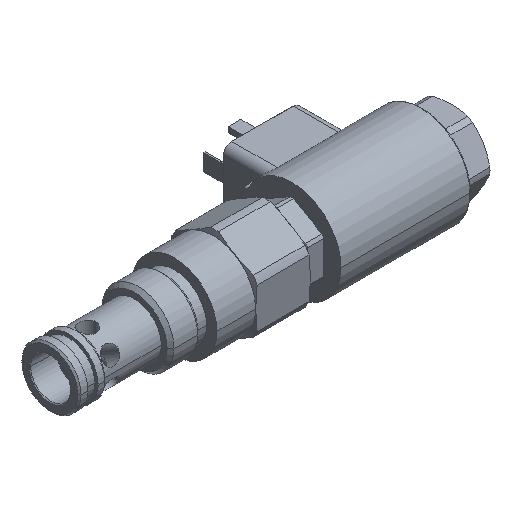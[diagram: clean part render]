
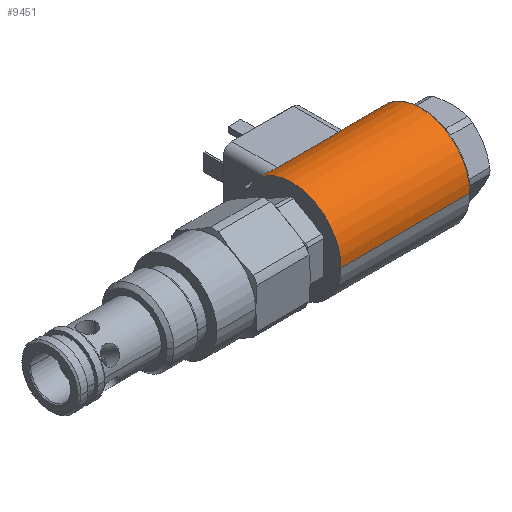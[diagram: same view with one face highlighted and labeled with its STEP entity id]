
A CAD part, isometric view. The second image highlights one B-rep face of the part: STEP entity #9451.
In plain terms, the highlighted cylindrical face has radius 18.5 mm (diameter 37 mm), a partial arc.
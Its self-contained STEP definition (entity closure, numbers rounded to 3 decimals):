
#6820=CARTESIAN_POINT('',(0.,0.,0.));
#6821=DIRECTION('',(1.,0.,0.));
#6822=DIRECTION('',(0.,1.,0.));
#6823=AXIS2_PLACEMENT_3D('',#6820,#6821,#6822);
#6859=DIRECTION('',(-1.,0.,0.));
#6860=VECTOR('',#6859,0.5);
#6861=CARTESIAN_POINT('',(0.5,18.5,0.));
#6862=LINE('',#6861,#6860);
#6866=DIRECTION('',(-1.,0.,0.));
#6867=VECTOR('',#6866,48.368);
#6868=CARTESIAN_POINT('',(48.368,-18.5,0.));
#6869=LINE('',#6868,#6867);
#6881=DIRECTION('',(-1.,0.,0.));
#6882=VECTOR('',#6881,16.368);
#6883=CARTESIAN_POINT('',(48.368,18.5,0.));
#6884=LINE('',#6883,#6882);
#7050=CARTESIAN_POINT('',(1.5,16.608,8.15));
#7051=CARTESIAN_POINT('',(1.468,16.608,8.15));
#7052=CARTESIAN_POINT('',(1.402,16.61,8.147));
#7053=CARTESIAN_POINT('',(1.304,16.617,8.132));
#7054=CARTESIAN_POINT('',(1.206,16.629,8.108));
#7055=CARTESIAN_POINT('',(1.112,16.645,8.074));
#7056=CARTESIAN_POINT('',(1.021,16.666,8.03));
#7057=CARTESIAN_POINT('',(0.933,16.692,7.976));
#7058=CARTESIAN_POINT('',(0.851,16.722,7.913));
#7059=CARTESIAN_POINT('',(0.775,16.756,7.841));
#7060=CARTESIAN_POINT('',(0.705,16.794,7.76));
#7061=CARTESIAN_POINT('',(0.644,16.835,7.671));
#7062=CARTESIAN_POINT('',(0.593,16.878,7.575));
#7063=CARTESIAN_POINT('',(0.552,16.923,7.475));
#7064=CARTESIAN_POINT('',(0.522,16.969,7.369));
#7065=CARTESIAN_POINT('',(0.504,17.016,7.26));
#7066=CARTESIAN_POINT('',(0.5,17.047,7.187));
#7067=CARTESIAN_POINT('',(0.5,17.062,7.15));
#7755=CARTESIAN_POINT('',(0.5,0.,0.));
#7756=DIRECTION('',(1.,0.,0.));
#7757=DIRECTION('',(0.,1.,0.));
#7758=AXIS2_PLACEMENT_3D('',#7755,#7756,#7757);
#7763=DIRECTION('',(1.,0.,0.));
#7764=VECTOR('',#7763,1.5);
#7765=CARTESIAN_POINT('',(1.5,16.608,8.15));
#7766=LINE('',#7765,#7764);
#7770=CARTESIAN_POINT('',(3.,0.,0.));
#7771=DIRECTION('',(1.,0.,0.));
#7772=DIRECTION('',(0.,0.898,0.441));
#7773=AXIS2_PLACEMENT_3D('',#7770,#7771,#7772);
#7778=CARTESIAN_POINT('',(3.,14.491,11.5));
#7779=CARTESIAN_POINT('',(3.,14.417,11.594));
#7780=CARTESIAN_POINT('',(3.009,14.263,11.784));
#7781=CARTESIAN_POINT('',(3.051,14.016,12.077));
#7782=CARTESIAN_POINT('',(3.122,13.762,12.366));
#7783=CARTESIAN_POINT('',(3.223,13.504,12.647));
#7784=CARTESIAN_POINT('',(3.35,13.247,12.916));
#7785=CARTESIAN_POINT('',(3.5,12.997,13.167));
#7786=CARTESIAN_POINT('',(3.669,12.761,13.396));
#7787=CARTESIAN_POINT('',(3.854,12.54,13.602));
#7788=CARTESIAN_POINT('',(4.05,12.339,13.785));
#7789=CARTESIAN_POINT('',(4.252,12.16,13.943));
#7790=CARTESIAN_POINT('',(4.458,12.004,14.077));
#7791=CARTESIAN_POINT('',(4.662,11.872,14.188));
#7792=CARTESIAN_POINT('',(4.863,11.763,14.279));
#7793=CARTESIAN_POINT('',(5.06,11.674,14.352));
#7794=CARTESIAN_POINT('',(5.254,11.604,14.408));
#7795=CARTESIAN_POINT('',(5.444,11.552,14.45));
#7796=CARTESIAN_POINT('',(5.63,11.515,14.479));
#7797=CARTESIAN_POINT('',(5.816,11.494,14.496));
#7798=CARTESIAN_POINT('',(5.939,11.489,14.5));
#7799=CARTESIAN_POINT('',(6.,11.489,14.5));
#7804=DIRECTION('',(1.,0.,0.));
#7805=VECTOR('',#7804,23.);
#7806=CARTESIAN_POINT('',(6.,11.489,14.5));
#7807=LINE('',#7806,#7805);
#7811=CARTESIAN_POINT('',(29.,11.489,14.5));
#7812=CARTESIAN_POINT('',(29.061,11.489,14.5));
#7813=CARTESIAN_POINT('',(29.184,11.494,14.496));
#7814=CARTESIAN_POINT('',(29.37,11.515,14.479));
#7815=CARTESIAN_POINT('',(29.556,11.552,14.45));
#7816=CARTESIAN_POINT('',(29.746,11.604,14.408));
#7817=CARTESIAN_POINT('',(29.94,11.674,14.352));
#7818=CARTESIAN_POINT('',(30.137,11.763,14.279));
#7819=CARTESIAN_POINT('',(30.338,11.872,14.188));
#7820=CARTESIAN_POINT('',(30.542,12.004,14.077));
#7821=CARTESIAN_POINT('',(30.748,12.16,13.943));
#7822=CARTESIAN_POINT('',(30.95,12.339,13.785));
#7823=CARTESIAN_POINT('',(31.146,12.54,13.602));
#7824=CARTESIAN_POINT('',(31.331,12.761,13.395));
#7825=CARTESIAN_POINT('',(31.5,12.997,13.167));
#7826=CARTESIAN_POINT('',(31.65,13.247,12.916));
#7827=CARTESIAN_POINT('',(31.777,13.504,12.647));
#7828=CARTESIAN_POINT('',(31.878,13.762,12.366));
#7829=CARTESIAN_POINT('',(31.949,14.016,12.077));
#7830=CARTESIAN_POINT('',(31.991,14.263,11.784));
#7831=CARTESIAN_POINT('',(32.,14.417,11.594));
#7832=CARTESIAN_POINT('',(32.,14.491,11.5));
#7837=CARTESIAN_POINT('',(32.,0.,0.));
#7838=DIRECTION('',(1.,0.,0.));
#7839=DIRECTION('',(0.,1.,0.));
#7840=AXIS2_PLACEMENT_3D('',#7837,#7838,#7839);
#7845=CARTESIAN_POINT('',(48.368,0.,0.));
#7846=DIRECTION('',(1.,0.,0.));
#7847=DIRECTION('',(0.,1.,0.));
#7848=AXIS2_PLACEMENT_3D('',#7845,#7846,#7847);
#8087=CARTESIAN_POINT('',(48.368,-18.5,0.));
#8088=CARTESIAN_POINT('',(0.,-18.5,0.));
#8089=VERTEX_POINT('',#8087);
#8090=VERTEX_POINT('',#8088);
#8091=CARTESIAN_POINT('',(6.,11.489,14.5));
#8092=CARTESIAN_POINT('',(29.,11.489,14.5));
#8093=VERTEX_POINT('',#8091);
#8094=VERTEX_POINT('',#8092);
#8095=VERTEX_POINT('',#7832);
#8096=CARTESIAN_POINT('',(32.,18.5,0.));
#8097=VERTEX_POINT('',#8096);
#8098=VERTEX_POINT('',#7778);
#8105=CARTESIAN_POINT('',(48.368,18.5,0.));
#8106=VERTEX_POINT('',#8105);
#8187=CARTESIAN_POINT('',(0.,18.5,0.));
#8188=VERTEX_POINT('',#8187);
#8241=CARTESIAN_POINT('',(3.,16.608,8.15));
#8242=VERTEX_POINT('',#8241);
#8245=CARTESIAN_POINT('',(1.5,16.608,8.15));
#8246=VERTEX_POINT('',#8245);
#8247=CARTESIAN_POINT('',(0.5,17.062,7.15));
#8248=VERTEX_POINT('',#8247);
#8256=CARTESIAN_POINT('',(0.5,18.5,0.));
#8257=VERTEX_POINT('',#8256);
#9426=CARTESIAN_POINT('',(-2.47,0.,0.));
#9427=DIRECTION('',(1.,0.,0.));
#9428=DIRECTION('',(0.,-1.,0.));
#9429=AXIS2_PLACEMENT_3D('',#9426,#9427,#9428);
#9430=CYLINDRICAL_SURFACE('',#9429,18.5);
#9432=ORIENTED_EDGE('',*,*,#9431,.T.);
#9433=ORIENTED_EDGE('',*,*,#8438,.F.);
#9434=ORIENTED_EDGE('',*,*,#8466,.T.);
#9435=ORIENTED_EDGE('',*,*,#8492,.T.);
#9437=ORIENTED_EDGE('',*,*,#9436,.T.);
#9439=ORIENTED_EDGE('',*,*,#9438,.T.);
#9441=ORIENTED_EDGE('',*,*,#9440,.T.);
#9442=ORIENTED_EDGE('',*,*,#9407,.F.);
#9443=ORIENTED_EDGE('',*,*,#8325,.F.);
#9445=ORIENTED_EDGE('',*,*,#9444,.T.);
#9446=ORIENTED_EDGE('',*,*,#8321,.T.);
#9447=ORIENTED_EDGE('',*,*,#8289,.F.);
#9448=ORIENTED_EDGE('',*,*,#8318,.F.);
#9449=EDGE_LOOP('',(#9432,#9433,#9434,#9435,#9437,#9439,#9441,#9442,#9443,#9445,
#9446,#9447,#9448));
#9450=FACE_OUTER_BOUND('',#9449,.F.);
#6824=CIRCLE('',#6823,18.5);
#7068=B_SPLINE_CURVE_WITH_KNOTS('',3,(#7050,#7051,#7052,#7053,#7054,#7055,#7056,
#7057,#7058,#7059,#7060,#7061,#7062,#7063,#7064,#7065,#7066,#7067),
.UNSPECIFIED.,.F.,.F.,(4,1,1,1,1,1,1,1,1,1,1,1,1,1,1,4),(0.,0.067,
0.133,0.2,0.267,0.333,0.4,
0.467,0.533,0.6,0.667,0.733,
0.8,0.867,0.933,1.),.UNSPECIFIED.);
#7759=CIRCLE('',#7758,18.5);
#7774=CIRCLE('',#7773,18.5);
#7800=B_SPLINE_CURVE_WITH_KNOTS('',3,(#7778,#7779,#7780,#7781,#7782,#7783,#7784,
#7785,#7786,#7787,#7788,#7789,#7790,#7791,#7792,#7793,#7794,#7795,#7796,#7797,
#7798,#7799),.UNSPECIFIED.,.F.,.F.,(4,1,1,1,1,1,1,1,1,1,1,1,1,1,1,1,1,1,1,4),(
0.,0.053,0.105,0.158,0.211,
0.263,0.316,0.368,0.421,
0.474,0.526,0.579,0.632,
0.684,0.737,0.789,0.842,
0.895,0.947,1.),.UNSPECIFIED.);
#7833=B_SPLINE_CURVE_WITH_KNOTS('',3,(#7811,#7812,#7813,#7814,#7815,#7816,#7817,
#7818,#7819,#7820,#7821,#7822,#7823,#7824,#7825,#7826,#7827,#7828,#7829,#7830,
#7831,#7832),.UNSPECIFIED.,.F.,.F.,(4,1,1,1,1,1,1,1,1,1,1,1,1,1,1,1,1,1,1,4),(
0.,0.053,0.105,0.158,0.211,
0.263,0.316,0.368,0.421,
0.474,0.526,0.579,0.632,
0.684,0.737,0.789,0.842,
0.895,0.947,1.),.UNSPECIFIED.);
#7841=CIRCLE('',#7840,18.5);
#7849=CIRCLE('',#7848,18.5);
#8289=EDGE_CURVE('',#8188,#8090,#6824,.T.);
#8318=EDGE_CURVE('',#8257,#8188,#6862,.T.);
#8321=EDGE_CURVE('',#8089,#8090,#6869,.T.);
#8325=EDGE_CURVE('',#8106,#8097,#6884,.T.);
#8438=EDGE_CURVE('',#8246,#8248,#7068,.T.);
#8466=EDGE_CURVE('',#8246,#8242,#7766,.T.);
#8492=EDGE_CURVE('',#8242,#8098,#7774,.T.);
#9407=EDGE_CURVE('',#8097,#8095,#7841,.T.);
#9431=EDGE_CURVE('',#8257,#8248,#7759,.T.);
#9436=EDGE_CURVE('',#8098,#8093,#7800,.T.);
#9438=EDGE_CURVE('',#8093,#8094,#7807,.T.);
#9440=EDGE_CURVE('',#8094,#8095,#7833,.T.);
#9444=EDGE_CURVE('',#8106,#8089,#7849,.T.);
#9451=ADVANCED_FACE('',(#9450),#9430,.T.);
